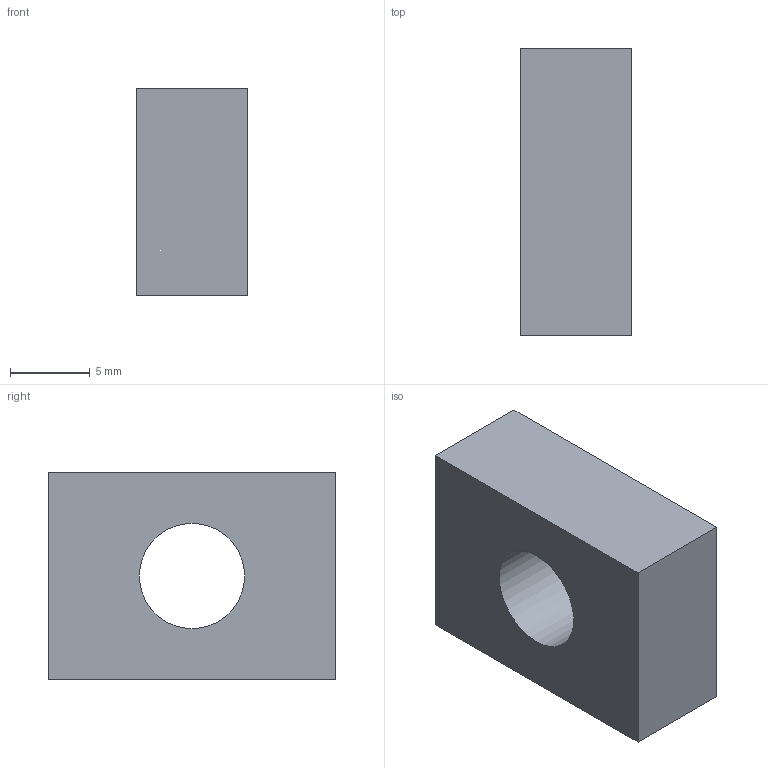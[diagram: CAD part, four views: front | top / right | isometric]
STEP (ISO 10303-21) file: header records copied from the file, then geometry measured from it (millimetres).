
FILE_DESCRIPTION(('Open CASCADE Model'),'2;1');
FILE_NAME('Open CASCADE Shape Model','2026-10-08T06:53:14',('Author'),( 'Open CASCADE'),'Open CASCADE STEP processor 7.8','Open CASCADE 7.8' ,'Unknown');
FILE_SCHEMA(('AUTOMOTIVE_DESIGN { 1 0 10303 214 1 1 1 1 }'));
Length unit declared in the file: millimetre
Products named in the file (1): Open CASCADE STEP translator 7.8 30
Bounding box: 7 x 18 x 13 mm (x, y, z)
Volume: 1398.5 mm3; surface area: 978.7 mm2
Topology: 1 solids, 1 shells, 7 faces, 15 edges, 10 vertices
Faces by surface type: plane 6, cylinder 1
Full cylindrical faces by diameter (mm): 6.6 x1
Entity records: 406 total; most frequent: CARTESIAN_POINT 75, DIRECTION 61, LINE 41, VECTOR 41, ORIENTED_EDGE 30, PCURVE 30, DEFINITIONAL_REPRESENTATION 30, EDGE_CURVE 15
